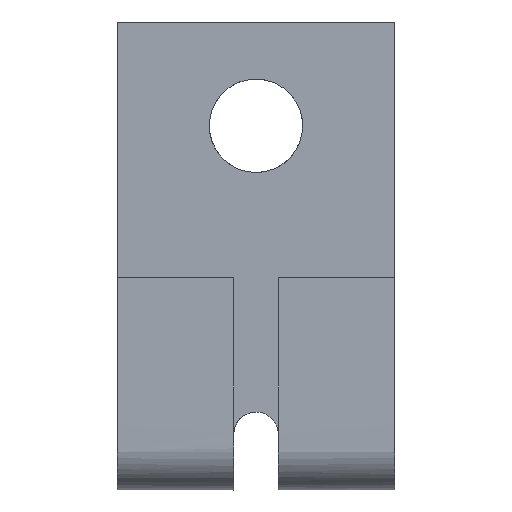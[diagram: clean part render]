
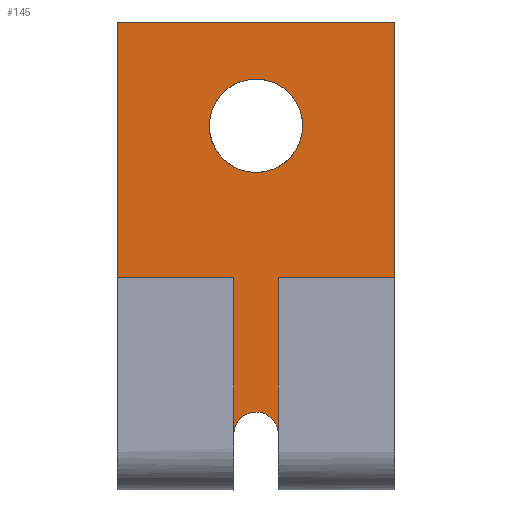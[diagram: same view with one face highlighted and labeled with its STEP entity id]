
A CAD part, front view. The second image highlights one B-rep face of the part: STEP entity #145.
In plain terms, the highlighted free-form (B-spline) face has degree [1, 2] with [2, 9] control points.
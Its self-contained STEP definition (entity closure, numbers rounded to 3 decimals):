
#19=FACE_BOUND($,#172,.T.);
#145=ADVANCED_FACE($,(#158,#19),#372,.T.);
#158=FACE_OUTER_BOUND($,#171,.T.);
#171=EDGE_LOOP($,(#189,#190,#191,#192,#193,#194,#195,#196,#197));
#172=EDGE_LOOP($,(#198));
#189=ORIENTED_EDGE($,*,*,#259,.F.);
#190=ORIENTED_EDGE($,*,*,#262,.T.);
#191=ORIENTED_EDGE($,*,*,#258,.T.);
#192=ORIENTED_EDGE($,*,*,#260,.T.);
#193=ORIENTED_EDGE($,*,*,#261,.T.);
#194=ORIENTED_EDGE($,*,*,#254,.F.);
#195=ORIENTED_EDGE($,*,*,#256,.F.);
#196=ORIENTED_EDGE($,*,*,#253,.T.);
#197=ORIENTED_EDGE($,*,*,#255,.T.);
#198=ORIENTED_EDGE($,*,*,#257,.F.);
#253=EDGE_CURVE($,#316,#315,#417,.T.);
#254=EDGE_CURVE($,#318,#317,#418,.T.);
#255=EDGE_CURVE($,#315,#322,#377,.T.);
#256=EDGE_CURVE($,#316,#318,#378,.T.);
#257=EDGE_CURVE($,#319,#319,#419,.T.);
#258=EDGE_CURVE($,#320,#321,#420,.T.);
#259=EDGE_CURVE($,#324,#322,#379,.T.);
#260=EDGE_CURVE($,#321,#323,#380,.T.);
#261=EDGE_CURVE($,#323,#317,#381,.T.);
#262=EDGE_CURVE($,#324,#320,#421,.T.);
#315=VERTEX_POINT($,#629);
#316=VERTEX_POINT($,#630);
#317=VERTEX_POINT($,#631);
#318=VERTEX_POINT($,#632);
#319=VERTEX_POINT($,#633);
#320=VERTEX_POINT($,#634);
#321=VERTEX_POINT($,#635);
#322=VERTEX_POINT($,#636);
#323=VERTEX_POINT($,#637);
#324=VERTEX_POINT($,#638);
#372=(
BOUNDED_SURFACE()
B_SPLINE_SURFACE(1,2,((#611,#612,#613,#614,#615,#616,#617,#618,#619),(#620,
#621,#622,#623,#624,#625,#626,#627,#628)),.UNSPECIFIED.,.F.,.F.,.F.)
B_SPLINE_SURFACE_WITH_KNOTS((2,2),(3,2,2,2,3),(0.,25.),(-61.563,
-46.423,-43.282,-40.14,-2.),.UNSPECIFIED.)
GEOMETRIC_REPRESENTATION_ITEM()
RATIONAL_B_SPLINE_SURFACE(((1.,1.,1.,0.707,1.,0.707,
1.,1.,1.),(1.,1.,1.,0.707,1.,0.707,1.,1.,1.)))
REPRESENTATION_ITEM($)
SURFACE()
);
#377=B_SPLINE_CURVE_WITH_KNOTS($,1,(#558,#559),.UNSPECIFIED.,.F.,.F.,(2,
2),(0.,10.5),.UNSPECIFIED.);
#378=B_SPLINE_CURVE_WITH_KNOTS($,1,(#560,#561),.UNSPECIFIED.,.F.,.F.,(2,
2),(0.,25.),.UNSPECIFIED.);
#379=B_SPLINE_CURVE_WITH_KNOTS($,3,(#584,#585,#586,#587),.UNSPECIFIED.,.F.,
.F.,(4,4),(0.009,14.128),.UNSPECIFIED.);
#380=B_SPLINE_CURVE_WITH_KNOTS($,1,(#588,#589),.UNSPECIFIED.,.F.,.F.,(2,
2),(0.,14.118),.UNSPECIFIED.);
#381=B_SPLINE_CURVE_WITH_KNOTS($,1,(#590,#591),.UNSPECIFIED.,.F.,.F.,(2,
2),(14.5,25.),.UNSPECIFIED.);
#417=(
BOUNDED_CURVE()
B_SPLINE_CURVE(2,(#540,#541,#542,#543,#544,#545,#546,#547,#548),.UNSPECIFIED.,
.F.,.F.)
B_SPLINE_CURVE_WITH_KNOTS((3,2,2,2,3),(2.,40.14,43.282,
46.423,61.563),.UNSPECIFIED.)
CURVE()
GEOMETRIC_REPRESENTATION_ITEM()
RATIONAL_B_SPLINE_CURVE((1.,1.,1.,0.707,1.,0.707,
1.,1.,1.))
REPRESENTATION_ITEM($)
);
#418=(
BOUNDED_CURVE()
B_SPLINE_CURVE(2,(#549,#550,#551,#552,#553,#554,#555,#556,#557),.UNSPECIFIED.,
.F.,.F.)
B_SPLINE_CURVE_WITH_KNOTS((3,2,2,2,3),(2.,40.14,43.282,
46.423,61.563),.UNSPECIFIED.)
CURVE()
GEOMETRIC_REPRESENTATION_ITEM()
RATIONAL_B_SPLINE_CURVE((1.,1.,1.,0.707,1.,0.707,
1.,1.,1.))
REPRESENTATION_ITEM($)
);
#419=(
BOUNDED_CURVE()
B_SPLINE_CURVE(2,(#562,#563,#564,#565,#566,#567,#568,#569,#570),.UNSPECIFIED.,
.T.,.F.)
B_SPLINE_CURVE_WITH_KNOTS((3,2,2,2,3),(-26.386,-19.79,
-13.193,-6.597,0.),.UNSPECIFIED.)
CURVE()
GEOMETRIC_REPRESENTATION_ITEM()
RATIONAL_B_SPLINE_CURVE((1.,0.707,1.,0.707,1.,0.707,
1.,0.707,1.))
REPRESENTATION_ITEM($)
);
#420=(
BOUNDED_CURVE()
B_SPLINE_CURVE(3,(#571,#572,#573,#574,#575,#576,#577,#578,#579,#580,#581,
#582,#583),.UNSPECIFIED.,.F.,.F.)
B_SPLINE_CURVE_WITH_KNOTS((4,3,3,3,4),(0.,1.022,4.163,
7.304,8.326),.UNSPECIFIED.)
CURVE()
GEOMETRIC_REPRESENTATION_ITEM()
RATIONAL_B_SPLINE_CURVE((1.,1.,1.,1.,0.805,0.805,
1.,0.805,0.805,1.,1.,1.,1.))
REPRESENTATION_ITEM($)
);
#421=(
BOUNDED_CURVE()
B_SPLINE_CURVE(3,(#592,#593,#594,#595,#596,#597,#598,#599,#600,#601,#602,
#603,#604,#605,#606,#607,#608,#609,#610),.UNSPECIFIED.,.F.,.F.)
B_SPLINE_CURVE_WITH_KNOTS((4,3,3,3,3,3,4),(6.282,7.305,
10.445,13.586,14.609,17.75,20.891),
.UNSPECIFIED.)
CURVE()
GEOMETRIC_REPRESENTATION_ITEM()
RATIONAL_B_SPLINE_CURVE((1.,1.,1.,1.,0.805,0.805,
1.,0.805,0.805,1.,1.,1.,1.,0.805,0.805,
1.,0.805,0.805,1.))
REPRESENTATION_ITEM($)
);
#540=CARTESIAN_POINT($,(-12.5,0.,0.));
#541=CARTESIAN_POINT($,(-12.5,0.,-19.07));
#542=CARTESIAN_POINT($,(-12.5,0.,-38.14));
#543=CARTESIAN_POINT($,(-12.5,0.,-40.14));
#544=CARTESIAN_POINT($,(-12.5,-2.,-40.14));
#545=CARTESIAN_POINT($,(-12.5,-4.,-40.14));
#546=CARTESIAN_POINT($,(-12.5,-4.,-38.14));
#547=CARTESIAN_POINT($,(-12.5,-4.,-30.57));
#548=CARTESIAN_POINT($,(-12.5,-4.,-23.));
#549=CARTESIAN_POINT($,(12.5,0.,0.));
#550=CARTESIAN_POINT($,(12.5,0.,-19.07));
#551=CARTESIAN_POINT($,(12.5,0.,-38.14));
#552=CARTESIAN_POINT($,(12.5,0.,-40.14));
#553=CARTESIAN_POINT($,(12.5,-2.,-40.14));
#554=CARTESIAN_POINT($,(12.5,-4.,-40.14));
#555=CARTESIAN_POINT($,(12.5,-4.,-38.14));
#556=CARTESIAN_POINT($,(12.5,-4.,-30.57));
#557=CARTESIAN_POINT($,(12.5,-4.,-23.));
#558=CARTESIAN_POINT($,(-12.5,-4.,-23.));
#559=CARTESIAN_POINT($,(-2.,-4.,-23.));
#560=CARTESIAN_POINT($,(-12.5,0.,0.));
#561=CARTESIAN_POINT($,(12.5,0.,0.));
#562=CARTESIAN_POINT($,(4.2,0.,-9.344));
#563=CARTESIAN_POINT($,(4.2,0.,-5.144));
#564=CARTESIAN_POINT($,(0.,0.,-5.144));
#565=CARTESIAN_POINT($,(-4.2,0.,-5.144));
#566=CARTESIAN_POINT($,(-4.2,0.,-9.344));
#567=CARTESIAN_POINT($,(-4.2,0.,-13.544));
#568=CARTESIAN_POINT($,(0.,0.,-13.544));
#569=CARTESIAN_POINT($,(4.2,0.,-13.544));
#570=CARTESIAN_POINT($,(4.2,0.,-9.344));
#571=CARTESIAN_POINT($,(2.,0.,-37.118));
#572=CARTESIAN_POINT($,(2.,0.,-37.458));
#573=CARTESIAN_POINT($,(2.,0.,-37.799));
#574=CARTESIAN_POINT($,(2.,0.,-38.14));
#575=CARTESIAN_POINT($,(2.,0.,-39.312));
#576=CARTESIAN_POINT($,(2.,-0.828,-40.14));
#577=CARTESIAN_POINT($,(2.,-2.,-40.14));
#578=CARTESIAN_POINT($,(2.,-3.172,-40.14));
#579=CARTESIAN_POINT($,(2.,-4.,-39.312));
#580=CARTESIAN_POINT($,(2.,-4.,-38.14));
#581=CARTESIAN_POINT($,(2.,-4.,-37.799));
#582=CARTESIAN_POINT($,(2.,-4.,-37.458));
#583=CARTESIAN_POINT($,(2.,-4.,-37.118));
#584=CARTESIAN_POINT($,(-2.,-4.,-37.118));
#585=CARTESIAN_POINT($,(-2.,-4.,-32.412));
#586=CARTESIAN_POINT($,(-2.,-4.,-27.706));
#587=CARTESIAN_POINT($,(-2.,-4.,-23.));
#588=CARTESIAN_POINT($,(2.,-4.,-37.118));
#589=CARTESIAN_POINT($,(2.,-4.,-23.));
#590=CARTESIAN_POINT($,(2.,-4.,-23.));
#591=CARTESIAN_POINT($,(12.5,-4.,-23.));
#592=CARTESIAN_POINT($,(-2.,-4.,-37.118));
#593=CARTESIAN_POINT($,(-2.,-4.,-37.458));
#594=CARTESIAN_POINT($,(-2.,-4.,-37.799));
#595=CARTESIAN_POINT($,(-2.,-4.,-38.14));
#596=CARTESIAN_POINT($,(-2.,-4.,-39.312));
#597=CARTESIAN_POINT($,(-2.,-3.172,-40.14));
#598=CARTESIAN_POINT($,(-2.,-2.,-40.14));
#599=CARTESIAN_POINT($,(-2.,-0.828,-40.14));
#600=CARTESIAN_POINT($,(-2.,0.,-39.312));
#601=CARTESIAN_POINT($,(-2.,0.,-38.14));
#602=CARTESIAN_POINT($,(-2.,0.,-37.799));
#603=CARTESIAN_POINT($,(-2.,0.,-37.458));
#604=CARTESIAN_POINT($,(-2.,0.,-37.118));
#605=CARTESIAN_POINT($,(-2.,0.,-35.946));
#606=CARTESIAN_POINT($,(-1.172,0.,-35.118));
#607=CARTESIAN_POINT($,(0.,0.,-35.118));
#608=CARTESIAN_POINT($,(1.172,0.,-35.118));
#609=CARTESIAN_POINT($,(2.,0.,-35.946));
#610=CARTESIAN_POINT($,(2.,0.,-37.118));
#611=CARTESIAN_POINT($,(-12.5,-4.,-23.));
#612=CARTESIAN_POINT($,(-12.5,-4.,-30.57));
#613=CARTESIAN_POINT($,(-12.5,-4.,-38.14));
#614=CARTESIAN_POINT($,(-12.5,-4.,-40.14));
#615=CARTESIAN_POINT($,(-12.5,-2.,-40.14));
#616=CARTESIAN_POINT($,(-12.5,0.,-40.14));
#617=CARTESIAN_POINT($,(-12.5,0.,-38.14));
#618=CARTESIAN_POINT($,(-12.5,0.,-19.07));
#619=CARTESIAN_POINT($,(-12.5,0.,0.));
#620=CARTESIAN_POINT($,(12.5,-4.,-23.));
#621=CARTESIAN_POINT($,(12.5,-4.,-30.57));
#622=CARTESIAN_POINT($,(12.5,-4.,-38.14));
#623=CARTESIAN_POINT($,(12.5,-4.,-40.14));
#624=CARTESIAN_POINT($,(12.5,-2.,-40.14));
#625=CARTESIAN_POINT($,(12.5,0.,-40.14));
#626=CARTESIAN_POINT($,(12.5,0.,-38.14));
#627=CARTESIAN_POINT($,(12.5,0.,-19.07));
#628=CARTESIAN_POINT($,(12.5,0.,0.));
#629=CARTESIAN_POINT($,(-12.5,-4.,-23.));
#630=CARTESIAN_POINT($,(-12.5,0.,0.));
#631=CARTESIAN_POINT($,(12.5,-4.,-23.));
#632=CARTESIAN_POINT($,(12.5,0.,0.));
#633=CARTESIAN_POINT($,(4.2,0.,-9.344));
#634=CARTESIAN_POINT($,(2.,0.,-37.118));
#635=CARTESIAN_POINT($,(2.,-4.,-37.118));
#636=CARTESIAN_POINT($,(-2.,-4.,-23.));
#637=CARTESIAN_POINT($,(2.,-4.,-23.));
#638=CARTESIAN_POINT($,(-2.,-4.,-37.118));
